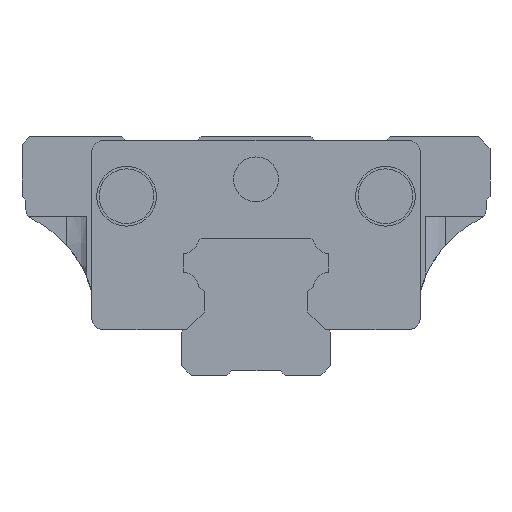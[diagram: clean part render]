
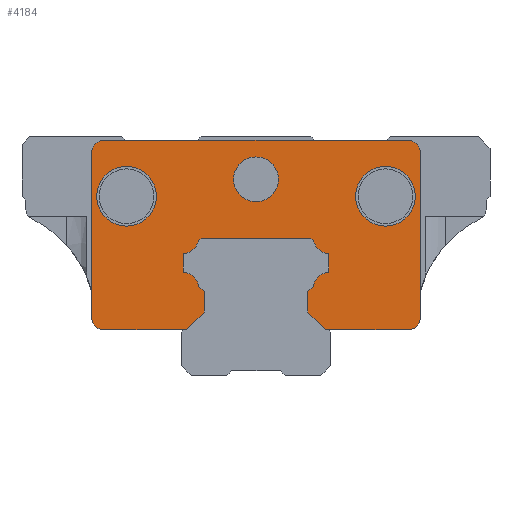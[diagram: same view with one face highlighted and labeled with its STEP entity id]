
A CAD part, left-side view. The second image highlights one B-rep face of the part: STEP entity #4184.
In plain terms, the highlighted planar face has unit normal (-1, 0, 0).
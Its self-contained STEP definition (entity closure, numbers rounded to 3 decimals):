
#3094=CARTESIAN_POINT('',(0.0,-15.3,4.6));
#3095=VERTEX_POINT('',#3094);
#3102=CARTESIAN_POINT('',(0.0,-6.976,4.6));
#3103=VERTEX_POINT('',#3102);
#3104=CARTESIAN_POINT('',(0.0,-15.3,4.6));
#3105=DIRECTION('',(0.0,1.0,0.0));
#3106=VECTOR('',#3105,8.324);
#3107=LINE('',#3104,#3106);
#3108=EDGE_CURVE('',#3095,#3103,#3107,.T.);
#3678=CARTESIAN_POINT('',(0.0,6.976,4.6));
#3679=VERTEX_POINT('',#3678);
#3686=CARTESIAN_POINT('',(0.0,15.3,4.6));
#3687=VERTEX_POINT('',#3686);
#3688=CARTESIAN_POINT('',(0.0,6.976,4.6));
#3689=DIRECTION('',(0.0,1.0,0.0));
#3690=VECTOR('',#3689,8.324);
#3691=LINE('',#3688,#3690);
#3692=EDGE_CURVE('',#3679,#3687,#3691,.T.);
#3857=CARTESIAN_POINT('',(0.0,-10.,18.));
#3858=VERTEX_POINT('',#3857);
#3859=CARTESIAN_POINT('',(0.0,-13.,18.));
#3860=DIRECTION('',(1.0,0.0,0.0));
#3861=DIRECTION('',(0.0,-1.0,0.0));
#3862=AXIS2_PLACEMENT_3D('',#3859,#3860,#3861);
#3863=CIRCLE('',#3862,3.);
#3864=EDGE_CURVE('',#3858,#3858,#3863,.T.);
#3897=CARTESIAN_POINT('',(0.0,2.25,19.7));
#3898=VERTEX_POINT('',#3897);
#3899=CARTESIAN_POINT('',(0.0,0.,19.7));
#3900=DIRECTION('',(1.0,0.0,0.0));
#3901=DIRECTION('',(0.0,-1.0,0.0));
#3902=AXIS2_PLACEMENT_3D('',#3899,#3900,#3901);
#3903=CIRCLE('',#3902,2.25);
#3904=EDGE_CURVE('',#3898,#3898,#3903,.T.);
#3962=CARTESIAN_POINT('',(0.0,16.,18.));
#3963=VERTEX_POINT('',#3962);
#3964=CARTESIAN_POINT('',(0.0,13.,18.));
#3965=DIRECTION('',(1.0,0.0,0.0));
#3966=DIRECTION('',(0.0,-1.0,0.0));
#3967=AXIS2_PLACEMENT_3D('',#3964,#3965,#3966);
#3968=CIRCLE('',#3967,3.);
#3969=EDGE_CURVE('',#3963,#3963,#3968,.T.);
#3986=CARTESIAN_POINT('',(0.0,0.,14.219));
#3987=DIRECTION('',(1.0,0.0,0.0));
#3988=DIRECTION('',(0.0,0.0,-1.0));
#3989=AXIS2_PLACEMENT_3D('',#3986,#3987,#3988);
#3990=PLANE('',#3989);
#3991=ORIENTED_EDGE('',*,*,#3108,.F.);
#3992=CARTESIAN_POINT('',(0.0,-16.5,5.8));
#3993=VERTEX_POINT('',#3992);
#3994=CARTESIAN_POINT('',(0.0,-15.3,5.8));
#3995=DIRECTION('',(1.0,0.0,0.0));
#3996=DIRECTION('',(0.0,-1.0,0.0));
#3997=AXIS2_PLACEMENT_3D('',#3994,#3995,#3996);
#3998=CIRCLE('',#3997,1.2);
#3999=EDGE_CURVE('',#3993,#3095,#3998,.T.);
#4000=ORIENTED_EDGE('',*,*,#3999,.F.);
#4001=CARTESIAN_POINT('',(0.0,-16.5,22.4));
#4002=VERTEX_POINT('',#4001);
#4003=CARTESIAN_POINT('',(0.0,-16.5,22.4));
#4004=DIRECTION('',(0.0,0.0,-1.0));
#4005=VECTOR('',#4004,16.6);
#4006=LINE('',#4003,#4005);
#4007=EDGE_CURVE('',#4002,#3993,#4006,.T.);
#4008=ORIENTED_EDGE('',*,*,#4007,.F.);
#4009=CARTESIAN_POINT('',(0.0,-15.3,23.6));
#4010=VERTEX_POINT('',#4009);
#4011=CARTESIAN_POINT('',(0.0,-15.3,22.4));
#4012=DIRECTION('',(1.0,0.0,0.0));
#4013=DIRECTION('',(0.0,0.0,1.0));
#4014=AXIS2_PLACEMENT_3D('',#4011,#4012,#4013);
#4015=CIRCLE('',#4014,1.2);
#4016=EDGE_CURVE('',#4010,#4002,#4015,.T.);
#4017=ORIENTED_EDGE('',*,*,#4016,.F.);
#4018=CARTESIAN_POINT('',(0.0,15.3,23.6));
#4019=VERTEX_POINT('',#4018);
#4020=CARTESIAN_POINT('',(0.0,15.3,23.6));
#4021=DIRECTION('',(0.0,-1.0,0.0));
#4022=VECTOR('',#4021,30.6);
#4023=LINE('',#4020,#4022);
#4024=EDGE_CURVE('',#4019,#4010,#4023,.T.);
#4025=ORIENTED_EDGE('',*,*,#4024,.F.);
#4026=CARTESIAN_POINT('',(0.0,16.5,22.4));
#4027=VERTEX_POINT('',#4026);
#4028=CARTESIAN_POINT('',(0.0,15.3,22.4));
#4029=DIRECTION('',(1.0,0.0,0.0));
#4030=DIRECTION('',(0.0,1.0,0.));
#4031=AXIS2_PLACEMENT_3D('',#4028,#4029,#4030);
#4032=CIRCLE('',#4031,1.2);
#4033=EDGE_CURVE('',#4027,#4019,#4032,.T.);
#4034=ORIENTED_EDGE('',*,*,#4033,.F.);
#4035=CARTESIAN_POINT('',(0.0,16.5,5.8));
#4036=VERTEX_POINT('',#4035);
#4037=CARTESIAN_POINT('',(0.0,16.5,5.8));
#4038=DIRECTION('',(0.0,0.0,1.0));
#4039=VECTOR('',#4038,16.6);
#4040=LINE('',#4037,#4039);
#4041=EDGE_CURVE('',#4036,#4027,#4040,.T.);
#4042=ORIENTED_EDGE('',*,*,#4041,.F.);
#4043=CARTESIAN_POINT('',(0.0,15.3,5.8));
#4044=DIRECTION('',(1.0,0.0,0.0));
#4045=DIRECTION('',(0.0,0.0,-1.0));
#4046=AXIS2_PLACEMENT_3D('',#4043,#4044,#4045);
#4047=CIRCLE('',#4046,1.2);
#4048=EDGE_CURVE('',#3687,#4036,#4047,.T.);
#4049=ORIENTED_EDGE('',*,*,#4048,.F.);
#4050=ORIENTED_EDGE('',*,*,#3692,.F.);
#4051=CARTESIAN_POINT('',(0.0,5.2,6.376));
#4052=VERTEX_POINT('',#4051);
#4053=CARTESIAN_POINT('',(0.0,5.2,6.376));
#4054=DIRECTION('',(0.0,0.707,-0.707));
#4055=VECTOR('',#4054,2.511);
#4056=LINE('',#4053,#4055);
#4057=EDGE_CURVE('',#4052,#3679,#4056,.T.);
#4058=ORIENTED_EDGE('',*,*,#4057,.F.);
#4059=CARTESIAN_POINT('',(0.0,5.2,8.424));
#4060=VERTEX_POINT('',#4059);
#4061=CARTESIAN_POINT('',(0.0,5.2,8.424));
#4062=DIRECTION('',(0.0,0.0,-1.0));
#4063=VECTOR('',#4062,2.049);
#4064=LINE('',#4061,#4063);
#4065=EDGE_CURVE('',#4060,#4052,#4064,.T.);
#4066=ORIENTED_EDGE('',*,*,#4065,.F.);
#4067=CARTESIAN_POINT('',(0.0,5.74,8.964));
#4068=VERTEX_POINT('',#4067);
#4069=CARTESIAN_POINT('',(0.0,5.74,8.964));
#4070=DIRECTION('',(0.0,-0.707,-0.707));
#4071=VECTOR('',#4070,0.763);
#4072=LINE('',#4069,#4071);
#4073=EDGE_CURVE('',#4068,#4060,#4072,.T.);
#4074=ORIENTED_EDGE('',*,*,#4073,.F.);
#4075=CARTESIAN_POINT('',(0.0,7.3,10.39));
#4076=VERTEX_POINT('',#4075);
#4077=CARTESIAN_POINT('',(0.0,7.545,8.555));
#4078=DIRECTION('',(1.0,0.0,0.0));
#4079=DIRECTION('',(0.0,-0.132,0.991));
#4080=AXIS2_PLACEMENT_3D('',#4077,#4078,#4079);
#4081=CIRCLE('',#4080,1.851);
#4082=EDGE_CURVE('',#4076,#4068,#4081,.T.);
#4083=ORIENTED_EDGE('',*,*,#4082,.F.);
#4084=CARTESIAN_POINT('',(0.0,7.3,12.21));
#4085=VERTEX_POINT('',#4084);
#4086=CARTESIAN_POINT('',(0.0,7.3,12.21));
#4087=DIRECTION('',(0.0,0.0,-1.0));
#4088=VECTOR('',#4087,1.82);
#4089=LINE('',#4086,#4088);
#4090=EDGE_CURVE('',#4085,#4076,#4089,.T.);
#4091=ORIENTED_EDGE('',*,*,#4090,.F.);
#4092=CARTESIAN_POINT('',(0.0,5.759,13.558));
#4093=VERTEX_POINT('',#4092);
#4094=CARTESIAN_POINT('',(0.0,7.545,14.045));
#4095=DIRECTION('',(1.0,0.0,0.0));
#4096=DIRECTION('',(0.0,-0.965,-0.263));
#4097=AXIS2_PLACEMENT_3D('',#4094,#4095,#4096);
#4098=CIRCLE('',#4097,1.851);
#4099=EDGE_CURVE('',#4093,#4085,#4098,.T.);
#4100=ORIENTED_EDGE('',*,*,#4099,.F.);
#4101=CARTESIAN_POINT('',(0.0,5.517,13.8));
#4102=VERTEX_POINT('',#4101);
#4103=CARTESIAN_POINT('',(0.0,5.517,13.8));
#4104=DIRECTION('',(0.0,0.707,-0.707));
#4105=VECTOR('',#4104,0.342);
#4106=LINE('',#4103,#4105);
#4107=EDGE_CURVE('',#4102,#4093,#4106,.T.);
#4108=ORIENTED_EDGE('',*,*,#4107,.F.);
#4109=CARTESIAN_POINT('',(0.0,-5.517,13.8));
#4110=VERTEX_POINT('',#4109);
#4111=CARTESIAN_POINT('',(0.0,-5.517,13.8));
#4112=DIRECTION('',(0.0,1.0,0.0));
#4113=VECTOR('',#4112,11.034);
#4114=LINE('',#4111,#4113);
#4115=EDGE_CURVE('',#4110,#4102,#4114,.T.);
#4116=ORIENTED_EDGE('',*,*,#4115,.F.);
#4117=CARTESIAN_POINT('',(0.0,-5.759,13.558));
#4118=VERTEX_POINT('',#4117);
#4119=CARTESIAN_POINT('',(0.0,-5.759,13.558));
#4120=DIRECTION('',(0.0,0.707,0.707));
#4121=VECTOR('',#4120,0.342);
#4122=LINE('',#4119,#4121);
#4123=EDGE_CURVE('',#4118,#4110,#4122,.T.);
#4124=ORIENTED_EDGE('',*,*,#4123,.F.);
#4125=CARTESIAN_POINT('',(0.0,-7.3,12.21));
#4126=VERTEX_POINT('',#4125);
#4127=CARTESIAN_POINT('',(0.0,-7.545,14.045));
#4128=DIRECTION('',(1.0,0.0,0.0));
#4129=DIRECTION('',(0.0,0.132,-0.991));
#4130=AXIS2_PLACEMENT_3D('',#4127,#4128,#4129);
#4131=CIRCLE('',#4130,1.851);
#4132=EDGE_CURVE('',#4126,#4118,#4131,.T.);
#4133=ORIENTED_EDGE('',*,*,#4132,.F.);
#4134=CARTESIAN_POINT('',(0.0,-7.3,10.39));
#4135=VERTEX_POINT('',#4134);
#4136=CARTESIAN_POINT('',(0.0,-7.3,10.39));
#4137=DIRECTION('',(0.0,0.0,1.0));
#4138=VECTOR('',#4137,1.82);
#4139=LINE('',#4136,#4138);
#4140=EDGE_CURVE('',#4135,#4126,#4139,.T.);
#4141=ORIENTED_EDGE('',*,*,#4140,.F.);
#4142=CARTESIAN_POINT('',(0.0,-5.74,8.964));
#4143=VERTEX_POINT('',#4142);
#4144=CARTESIAN_POINT('',(0.0,-7.545,8.555));
#4145=DIRECTION('',(1.,0.0,0.0));
#4146=DIRECTION('',(0.0,0.975,0.221));
#4147=AXIS2_PLACEMENT_3D('',#4144,#4145,#4146);
#4148=CIRCLE('',#4147,1.851);
#4149=EDGE_CURVE('',#4143,#4135,#4148,.T.);
#4150=ORIENTED_EDGE('',*,*,#4149,.F.);
#4151=CARTESIAN_POINT('',(0.0,-5.2,8.424));
#4152=VERTEX_POINT('',#4151);
#4153=CARTESIAN_POINT('',(0.0,-5.2,8.424));
#4154=DIRECTION('',(0.0,-0.707,0.707));
#4155=VECTOR('',#4154,0.763);
#4156=LINE('',#4153,#4155);
#4157=EDGE_CURVE('',#4152,#4143,#4156,.T.);
#4158=ORIENTED_EDGE('',*,*,#4157,.F.);
#4159=CARTESIAN_POINT('',(0.0,-5.2,6.376));
#4160=VERTEX_POINT('',#4159);
#4161=CARTESIAN_POINT('',(0.0,-5.2,6.376));
#4162=DIRECTION('',(0.0,0.0,1.0));
#4163=VECTOR('',#4162,2.049);
#4164=LINE('',#4161,#4163);
#4165=EDGE_CURVE('',#4160,#4152,#4164,.T.);
#4166=ORIENTED_EDGE('',*,*,#4165,.F.);
#4167=CARTESIAN_POINT('',(0.0,-6.976,4.6));
#4168=DIRECTION('',(0.0,0.707,0.707));
#4169=VECTOR('',#4168,2.511);
#4170=LINE('',#4167,#4169);
#4171=EDGE_CURVE('',#3103,#4160,#4170,.T.);
#4172=ORIENTED_EDGE('',*,*,#4171,.F.);
#4173=EDGE_LOOP('',(#3991,#4000,#4008,#4017,#4025,#4034,#4042,#4049,#4050,#4058,#4066,#4074,#4083,#4091,#4100,#4108,#4116,#4124,#4133,#4141,#4150,#4158,#4166,#4172));
#4174=FACE_OUTER_BOUND('',#4173,.T.);
#4175=ORIENTED_EDGE('',*,*,#3864,.T.);
#4176=EDGE_LOOP('',(#4175));
#4177=FACE_BOUND('',#4176,.T.);
#4178=ORIENTED_EDGE('',*,*,#3904,.T.);
#4179=EDGE_LOOP('',(#4178));
#4180=FACE_BOUND('',#4179,.T.);
#4181=ORIENTED_EDGE('',*,*,#3969,.T.);
#4182=EDGE_LOOP('',(#4181));
#4183=FACE_BOUND('',#4182,.T.);
#4184=ADVANCED_FACE('',(#4174,#4177,#4180,#4183),#3990,.F.);
